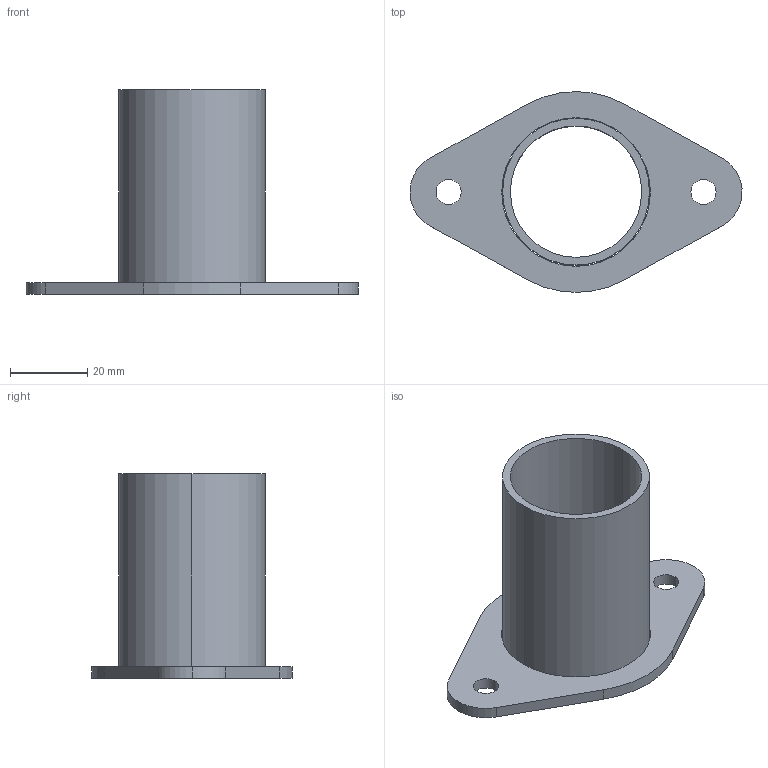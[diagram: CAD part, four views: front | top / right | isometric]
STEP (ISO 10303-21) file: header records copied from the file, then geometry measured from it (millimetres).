
FILE_DESCRIPTION (( 'STEP AP203' ), '1' );
FILE_NAME ('Väggfäste.STEP', '2014-09-26T06:44:55', ( '' ), ( '' ), 'SwSTEP 2.0', 'SolidWorks 2014', '' );
FILE_SCHEMA (( 'CONFIG_CONTROL_DESIGN' ));
Length unit declared in the file: millimetre
Products named in the file (1): V輍gf酲te
Bounding box: 85.97 x 52 x 53 mm (x, y, z)
Volume: 17222.8 mm3; surface area: 17047.8 mm2
Topology: 2 solids, 2 shells, 23 faces, 57 edges, 38 vertices
Faces by surface type: cylinder 15, plane 8
Entity records: 792 total; most frequent: DIRECTION 135, CARTESIAN_POINT 119, ORIENTED_EDGE 114, EDGE_CURVE 57, AXIS2_PLACEMENT_3D 54, VERTEX_POINT 38, EDGE_LOOP 31, CIRCLE 30
